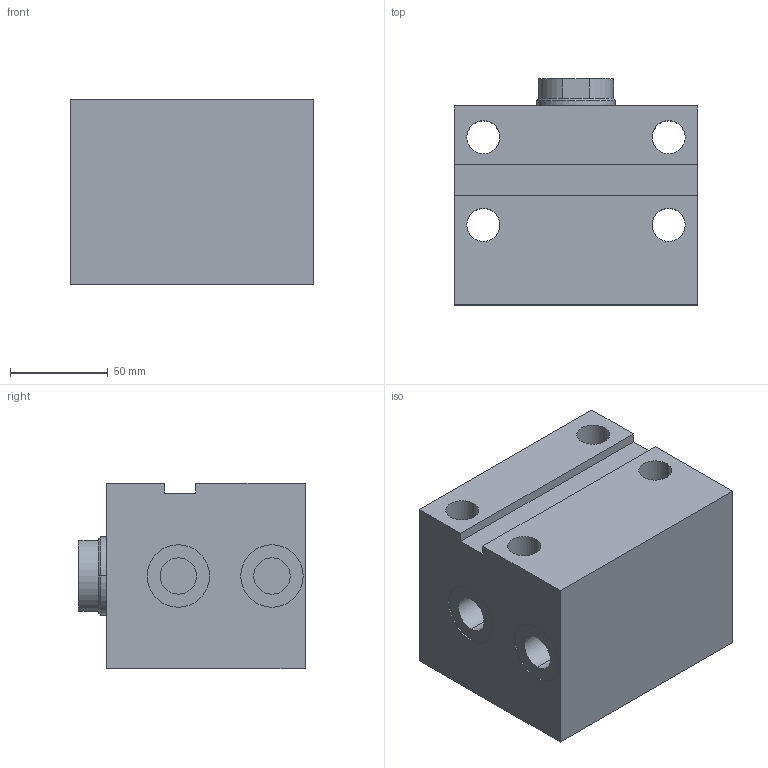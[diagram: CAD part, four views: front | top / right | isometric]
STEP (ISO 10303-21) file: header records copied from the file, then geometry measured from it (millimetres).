
FILE_DESCRIPTION (( 'STEP AP203' ), '1' );
FILE_NAME ('GERMA_Blockzylinder_601-063-030.STEP', '2015-07-16T12:59:17', ( '' ), ( '' ), 'SwSTEP 2.0', 'SolidWorks 2015', '' );
FILE_SCHEMA (( 'CONFIG_CONTROL_DESIGN' ));
Length unit declared in the file: millimetre
Products named in the file (3): GH-600-063_GH-601-063-030; Kolben 60x-063_Kolben DU.63-Hub30-IG; GERMA_Blockzylinder_601-063-030
Assembly tree (2 placements, depth 2):
  GERMA_Blockzylinder_601-063-030
    GH-600-063_GH-601-063-030
    Kolben 60x-063_Kolben DU.63-Hub30-IG
Bounding box: 125 x 116 x 95 mm (x, y, z)
Volume: 1041840 mm3; surface area: 134345.7 mm2
Topology: 2 solids, 2 shells, 77 faces, 172 edges, 106 vertices
Faces by surface type: cylinder 37, plane 26, cone 14
Entity records: 2434 total; most frequent: DIRECTION 415, CARTESIAN_POINT 354, ORIENTED_EDGE 332, AXIS2_PLACEMENT_3D 167, EDGE_CURVE 166, VERTEX_POINT 106, EDGE_LOOP 98, CIRCLE 85
